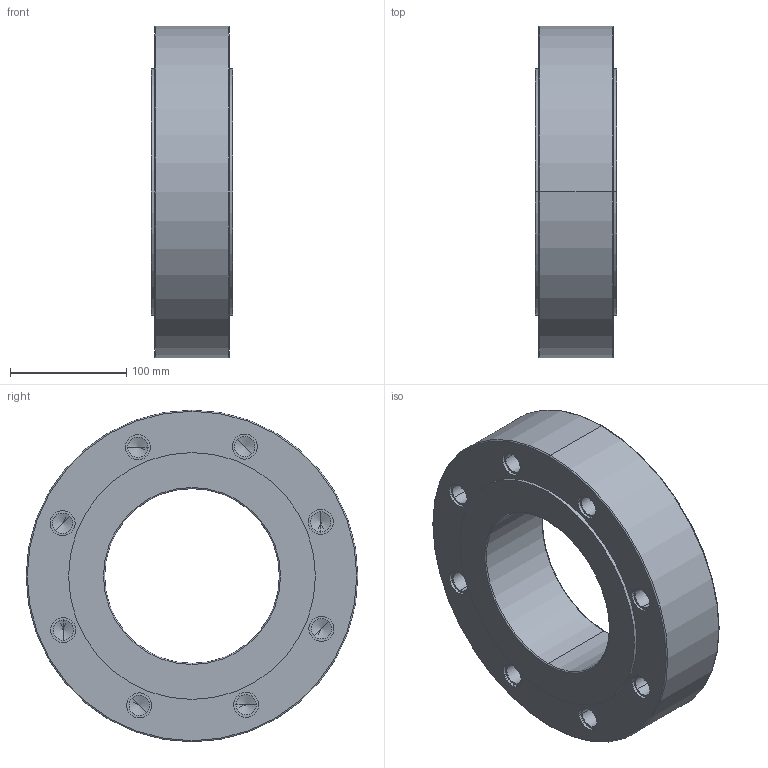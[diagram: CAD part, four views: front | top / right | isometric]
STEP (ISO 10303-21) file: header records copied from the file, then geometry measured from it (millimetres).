
FILE_DESCRIPTION (( 'STEP AP203' ), '1' );
FILE_NAME ('W8_PN10_DN150.STEP', '2012-10-31T06:57:23', ( 'luca.saino' ), ( 'Hewlett-Packard Company' ), 'SwSTEP 2.0', 'SolidWorks 2012', '' );
FILE_SCHEMA (( 'CONFIG_CONTROL_DESIGN' ));
Length unit declared in the file: millimetre
Products named in the file (1): W8_PN10_DN150
Bounding box: 70 x 285 x 285 mm (x, y, z)
Volume: 2946777.5 mm3; surface area: 209374.5 mm2
Topology: 1 solids, 1 shells, 132 faces, 296 edges, 168 vertices
Faces by surface type: cylinder 72, cone 32, plane 20, torus 8
Entity records: 3557 total; most frequent: DIRECTION 690, CARTESIAN_POINT 565, ORIENTED_EDGE 528, AXIS2_PLACEMENT_3D 293, EDGE_CURVE 264, VERTEX_POINT 168, EDGE_LOOP 168, CIRCLE 160
